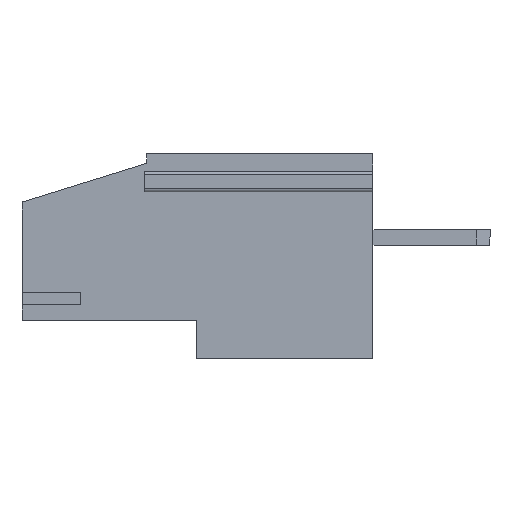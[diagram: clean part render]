
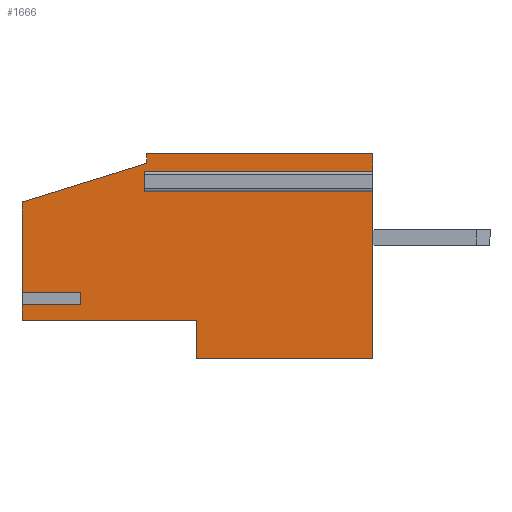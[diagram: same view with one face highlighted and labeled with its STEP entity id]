
A CAD part, left-side view. The second image highlights one B-rep face of the part: STEP entity #1666.
In plain terms, the highlighted planar face has unit normal (-1, 0, 0).
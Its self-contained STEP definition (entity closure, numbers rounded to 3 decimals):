
#158 = VECTOR ( 'NONE', #4028, 1000. ) ;
#171 = VECTOR ( 'NONE', #3746, 1000. ) ;
#182 = VECTOR ( 'NONE', #3767, 1000. ) ;
#187 = VECTOR ( 'NONE', #3764, 1000. ) ;
#201 = VECTOR ( 'NONE', #3755, 1000. ) ;
#226 = VECTOR ( 'NONE', #3740, 1000. ) ;
#228 = VECTOR ( 'NONE', #3734, 1000. ) ;
#342 = VECTOR ( 'NONE', #4421, 1000. ) ;
#357 = VECTOR ( 'NONE', #4436, 1000. ) ;
#367 = VECTOR ( 'NONE', #4442, 1000. ) ;
#369 = VECTOR ( 'NONE', #4439, 1000. ) ;
#582 = VECTOR ( 'NONE', #3722, 1000. ) ;
#597 = VECTOR ( 'NONE', #3713, 1000. ) ;
#625 = VECTOR ( 'NONE', #3695, 1000. ) ;
#629 = VECTOR ( 'NONE', #3689, 1000. ) ;
#635 = VECTOR ( 'NONE', #3680, 1000. ) ;
#861 = EDGE_CURVE ( 'NONE', #2371, #2421, #3678, .T. ) ;
#864 = EDGE_CURVE ( 'NONE', #2421, #2370, #3687, .T. ) ;
#866 = EDGE_CURVE ( 'NONE', #2370, #2403, #3693, .T. ) ;
#872 = EDGE_CURVE ( 'NONE', #2430, #2432, #3711, .T. ) ;
#875 = EDGE_CURVE ( 'NONE', #2432, #2431, #3720, .T. ) ;
#879 = EDGE_CURVE ( 'NONE', #2386, #2385, #3732, .T. ) ;
#881 = EDGE_CURVE ( 'NONE', #2385, #2388, #3738, .T. ) ;
#883 = EDGE_CURVE ( 'NONE', #2388, #2387, #3744, .T. ) ;
#886 = EDGE_CURVE ( 'NONE', #2387, #2389, #3753, .T. ) ;
#889 = EDGE_CURVE ( 'NONE', #2431, #2386, #3762, .T. ) ;
#890 = EDGE_CURVE ( 'NONE', #2389, #2429, #3765, .T. ) ;
#986 = EDGE_CURVE ( 'NONE', #2378, #2429, #4026, .T. ) ;
#1107 = EDGE_CURVE ( 'NONE', #2438, #2430, #4419, .T. ) ;
#1112 = EDGE_CURVE ( 'NONE', #2378, #2439, #4434, .T. ) ;
#1113 = EDGE_CURVE ( 'NONE', #2403, #2438, #4437, .T. ) ;
#1114 = EDGE_CURVE ( 'NONE', #2439, #2371, #4440, .T. ) ;
#1666 = ADVANCED_FACE ( 'NONE', ( #5594 ), #5235, .F. ) ;
#2370 = VERTEX_POINT ( 'NONE', #6533 ) ;
#2371 = VERTEX_POINT ( 'NONE', #6534 ) ;
#2378 = VERTEX_POINT ( 'NONE', #6541 ) ;
#2385 = VERTEX_POINT ( 'NONE', #6548 ) ;
#2386 = VERTEX_POINT ( 'NONE', #6549 ) ;
#2387 = VERTEX_POINT ( 'NONE', #6550 ) ;
#2388 = VERTEX_POINT ( 'NONE', #6551 ) ;
#2389 = VERTEX_POINT ( 'NONE', #6552 ) ;
#2403 = VERTEX_POINT ( 'NONE', #6566 ) ;
#2421 = VERTEX_POINT ( 'NONE', #6584 ) ;
#2429 = VERTEX_POINT ( 'NONE', #6592 ) ;
#2430 = VERTEX_POINT ( 'NONE', #6593 ) ;
#2431 = VERTEX_POINT ( 'NONE', #6594 ) ;
#2432 = VERTEX_POINT ( 'NONE', #6595 ) ;
#2438 = VERTEX_POINT ( 'NONE', #6601 ) ;
#2439 = VERTEX_POINT ( 'NONE', #6602 ) ;
#2552 = ORIENTED_EDGE ( 'NONE', *, *, #883, .F. ) ;
#2554 = ORIENTED_EDGE ( 'NONE', *, *, #986, .T. ) ;
#2555 = ORIENTED_EDGE ( 'NONE', *, *, #890, .F. ) ;
#2556 = ORIENTED_EDGE ( 'NONE', *, *, #886, .F. ) ;
#2557 = ORIENTED_EDGE ( 'NONE', *, *, #881, .F. ) ;
#2558 = ORIENTED_EDGE ( 'NONE', *, *, #879, .F. ) ;
#2559 = ORIENTED_EDGE ( 'NONE', *, *, #889, .F. ) ;
#2560 = ORIENTED_EDGE ( 'NONE', *, *, #875, .F. ) ;
#2561 = ORIENTED_EDGE ( 'NONE', *, *, #872, .F. ) ;
#2562 = ORIENTED_EDGE ( 'NONE', *, *, #1107, .F. ) ;
#2563 = ORIENTED_EDGE ( 'NONE', *, *, #1113, .F. ) ;
#2564 = ORIENTED_EDGE ( 'NONE', *, *, #861, .F. ) ;
#2565 = ORIENTED_EDGE ( 'NONE', *, *, #866, .F. ) ;
#2566 = ORIENTED_EDGE ( 'NONE', *, *, #864, .F. ) ;
#2567 = ORIENTED_EDGE ( 'NONE', *, *, #1114, .F. ) ;
#2569 = ORIENTED_EDGE ( 'NONE', *, *, #1112, .F. ) ;
#2864 = EDGE_LOOP ( 'NONE', ( #2554, #2555, #2556, #2552, #2557, #2558, #2559, #2560, #2561, #2562, #2563, #2565, #2566, #2564, #2567, #2569 ) ) ;
#3678 = LINE ( 'NONE', #3679, #635 ) ;
#3679 = CARTESIAN_POINT ( 'NONE',  ( -15.24, 0., 9.385 ) ) ;
#3680 = DIRECTION ( 'NONE',  ( 0., 1., 0. ) ) ;
#3687 = LINE ( 'NONE', #3688, #629 ) ;
#3688 = CARTESIAN_POINT ( 'NONE',  ( -15.24, 11.7, 0. ) ) ;
#3689 = DIRECTION ( 'NONE',  ( 0., 0., -1. ) ) ;
#3693 = LINE ( 'NONE', #3694, #625 ) ;
#3694 = CARTESIAN_POINT ( 'NONE',  ( -15.24, 0., 8.735 ) ) ;
#3695 = DIRECTION ( 'NONE',  ( 0., -1., 0. ) ) ;
#3711 = LINE ( 'NONE', #3712, #597 ) ;
#3712 = CARTESIAN_POINT ( 'NONE',  ( -15.24, 9.07, 0. ) ) ;
#3713 = DIRECTION ( 'NONE',  ( 0., 0., 1. ) ) ;
#3720 = LINE ( 'NONE', #3721, #582 ) ;
#3721 = CARTESIAN_POINT ( 'NONE',  ( -15.24, 0., 1.95 ) ) ;
#3722 = DIRECTION ( 'NONE',  ( 0., 1., 0. ) ) ;
#3732 = LINE ( 'NONE', #3733, #228 ) ;
#3733 = CARTESIAN_POINT ( 'NONE',  ( -15.24, 0., 2.745 ) ) ;
#3734 = DIRECTION ( 'NONE',  ( 0., -1., 0. ) ) ;
#3738 = LINE ( 'NONE', #3739, #226 ) ;
#3739 = CARTESIAN_POINT ( 'NONE',  ( -15.24, 15., 0. ) ) ;
#3740 = DIRECTION ( 'NONE',  ( 0., 0., 1. ) ) ;
#3744 = LINE ( 'NONE', #3745, #171 ) ;
#3745 = CARTESIAN_POINT ( 'NONE',  ( -15.24, 0., 3.395 ) ) ;
#3746 = DIRECTION ( 'NONE',  ( 0., 1., 0. ) ) ;
#3753 = LINE ( 'NONE', #3754, #201 ) ;
#3754 = CARTESIAN_POINT ( 'NONE',  ( -15.24, 18., 0. ) ) ;
#3755 = DIRECTION ( 'NONE',  ( 0., 0., 1. ) ) ;
#3762 = LINE ( 'NONE', #3763, #187 ) ;
#3763 = CARTESIAN_POINT ( 'NONE',  ( -15.24, 18., 0. ) ) ;
#3764 = DIRECTION ( 'NONE',  ( 0., 0., 1. ) ) ;
#3765 = LINE ( 'NONE', #3766, #182 ) ;
#3766 = CARTESIAN_POINT ( 'NONE',  ( -15.24, 18., 8.02 ) ) ;
#3767 = DIRECTION ( 'NONE',  ( 0., -0.955, 0.296 ) ) ;
#4026 = LINE ( 'NONE', #4027, #158 ) ;
#4027 = CARTESIAN_POINT ( 'NONE',  ( -15.24, 11.61, 10.5 ) ) ;
#4028 = DIRECTION ( 'NONE',  ( 0., 0., -1. ) ) ;
#4419 = LINE ( 'NONE', #4420, #342 ) ;
#4420 = CARTESIAN_POINT ( 'NONE',  ( -15.24, 0., 0. ) ) ;
#4421 = DIRECTION ( 'NONE',  ( 0., 1., 0. ) ) ;
#4434 = LINE ( 'NONE', #4435, #357 ) ;
#4435 = CARTESIAN_POINT ( 'NONE',  ( -15.24, 0., 10.5 ) ) ;
#4436 = DIRECTION ( 'NONE',  ( 0., -1., 0. ) ) ;
#4437 = LINE ( 'NONE', #4438, #369 ) ;
#4438 = CARTESIAN_POINT ( 'NONE',  ( -15.24, 0., 10.5 ) ) ;
#4439 = DIRECTION ( 'NONE',  ( 0., 0., -1. ) ) ;
#4440 = LINE ( 'NONE', #4441, #367 ) ;
#4441 = CARTESIAN_POINT ( 'NONE',  ( -15.24, 0., 10.5 ) ) ;
#4442 = DIRECTION ( 'NONE',  ( 0., 0., -1. ) ) ;
#5235 = PLANE ( 'NONE',  #5592 ) ;
#5236 = CARTESIAN_POINT ( 'NONE',  ( -15.24, 0., 0. ) ) ;
#5237 = DIRECTION ( 'NONE',  ( 1., 0., 0. ) ) ;
#5238 = DIRECTION ( 'NONE',  ( 0., 0., -1. ) ) ;
#5592 = AXIS2_PLACEMENT_3D ( 'NONE', #5236, #5237, #5238 ) ;
#5594 = FACE_OUTER_BOUND ( 'NONE', #2864, .T. ) ;
#6533 = CARTESIAN_POINT ( 'NONE',  ( -15.24, 11.7, 8.735 ) ) ;
#6534 = CARTESIAN_POINT ( 'NONE',  ( -15.24, 0., 9.385 ) ) ;
#6541 = CARTESIAN_POINT ( 'NONE',  ( -15.24, 11.61, 10.5 ) ) ;
#6548 = CARTESIAN_POINT ( 'NONE',  ( -15.24, 15., 2.745 ) ) ;
#6549 = CARTESIAN_POINT ( 'NONE',  ( -15.24, 18., 2.745 ) ) ;
#6550 = CARTESIAN_POINT ( 'NONE',  ( -15.24, 18., 3.395 ) ) ;
#6551 = CARTESIAN_POINT ( 'NONE',  ( -15.24, 15., 3.395 ) ) ;
#6552 = CARTESIAN_POINT ( 'NONE',  ( -15.24, 18., 8.02 ) ) ;
#6566 = CARTESIAN_POINT ( 'NONE',  ( -15.24, 0., 8.735 ) ) ;
#6584 = CARTESIAN_POINT ( 'NONE',  ( -15.24, 11.7, 9.385 ) ) ;
#6592 = CARTESIAN_POINT ( 'NONE',  ( -15.24, 11.61, 10. ) ) ;
#6593 = CARTESIAN_POINT ( 'NONE',  ( -15.24, 9.07, 0. ) ) ;
#6594 = CARTESIAN_POINT ( 'NONE',  ( -15.24, 18., 1.95 ) ) ;
#6595 = CARTESIAN_POINT ( 'NONE',  ( -15.24, 9.07, 1.95 ) ) ;
#6601 = CARTESIAN_POINT ( 'NONE',  ( -15.24, 0., 0. ) ) ;
#6602 = CARTESIAN_POINT ( 'NONE',  ( -15.24, 0., 10.5 ) ) ;
